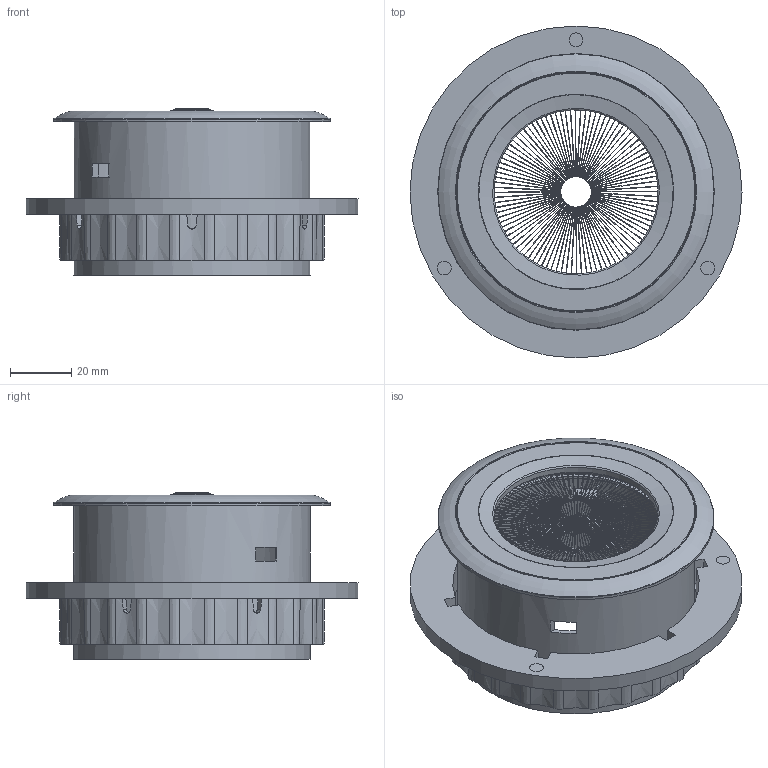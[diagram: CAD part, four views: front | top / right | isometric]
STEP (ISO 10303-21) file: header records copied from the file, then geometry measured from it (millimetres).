
FILE_DESCRIPTION((''),'2;1');
FILE_NAME('P:\Manufacturing\Autocad drawings\Inventor\blocks\Brush Grommet\Brush Grommet Assembly Block.stp','2018-01-26T16:19:24',('Chris.Stephenson'),(''),'Autodesk Inventor 2012','Autodesk Inventor 2012','');
FILE_SCHEMA(('AUTOMOTIVE_DESIGN { 1 0 10303 214 1 1 1 1 }'));
Length unit declared in the file: millimetre
Products named in the file (5): Brush Grommet Assembly Block; Pixel Grommet - derived block; Pixel Grommet Nut - derived block; Brush Grommet Housing - derived block; Brush Grommet Brush - derived block
Assembly tree (4 placements, depth 2):
  Brush Grommet Assembly Block
    Pixel Grommet - derived block
    Pixel Grommet Nut - derived block
    Brush Grommet Housing - derived block
    Brush Grommet Brush - derived block
Bounding box: 108 x 108 x 54.32 mm (x, y, z)
Volume: 60805.8 mm3; surface area: 62625.7 mm2
Topology: 8 solids, 9 shells, 740 faces, 2175 edges, 1444 vertices
Faces by surface type: torus 313, plane 293, cone 86, cylinder 29, revolution 12, bspline 7
Full cylindrical faces by diameter (mm): 4.5 x3, 59.107 x1, 62 x1, 62.157 x1, 64 x1, 73.871 x1, 77 x1, 80.211 x1
Entity records: 35375 total; most frequent: CARTESIAN_POINT 19550, DIRECTION 3122, ORIENTED_EDGE 2856, AXIS2_PLACEMENT_3D 1437, EDGE_CURVE 1428, EDGE_LOOP 1301, VERTEX_POINT 1034, FACE_OUTER_BOUND 740
